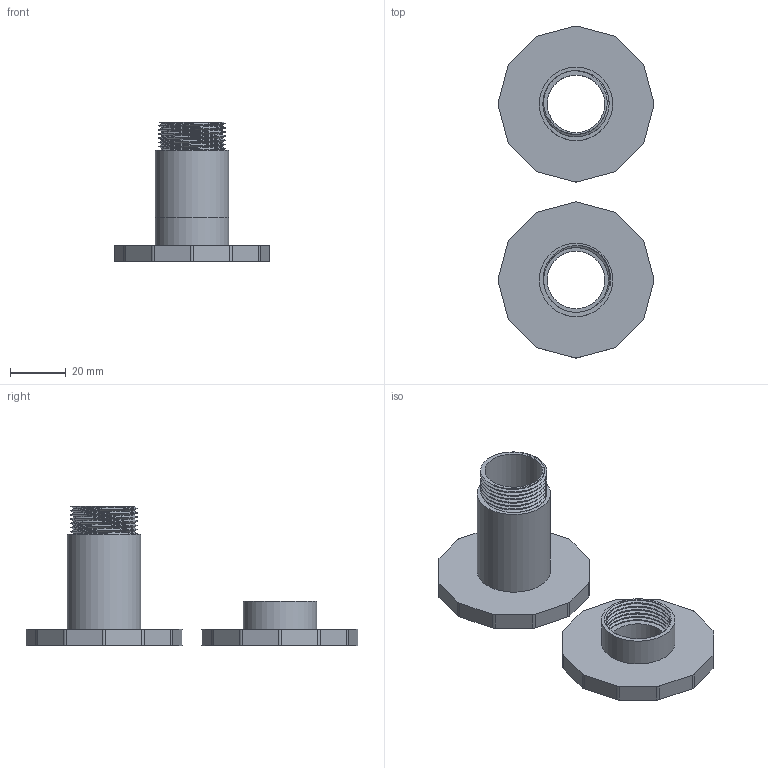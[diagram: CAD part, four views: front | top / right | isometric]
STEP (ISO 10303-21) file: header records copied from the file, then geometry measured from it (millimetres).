
FILE_DESCRIPTION(('FreeCAD Model'),'2;1');
FILE_NAME('Open CASCADE Shape Model','2026-03-25T19:22:08',(''),(''), 'Open CASCADE STEP processor 7.8','FreeCAD','Unknown');
FILE_SCHEMA(('AUTOMOTIVE_DESIGN { 1 0 10303 214 1 1 1 1 }'));
Length unit declared in the file: millimetre
Products named in the file (3): Unnamed1; Body002; Body003
Assembly tree (2 placements, depth 2):
  Unnamed1
    Body002
    Body003
Bounding box: 55.84 x 118.84 x 50 mm (x, y, z)
Volume: 33151.3 mm3; surface area: 19801.4 mm2
Topology: 2 solids, 2 shells, 120 faces, 286 edges, 174 vertices
Faces by surface type: bspline 45, cylinder 43, plane 32
Full cylindrical faces by diameter (mm): 20.6 x2, 23.196 x5, 23.71 x6, 26.3 x2
Entity records: 16497 total; most frequent: CARTESIAN_POINT 11142, DIRECTION 840, ORIENTED_EDGE 572, PCURVE 572, DEFINITIONAL_REPRESENTATION 572, LINE 533, VECTOR 533, EDGE_CURVE 286
